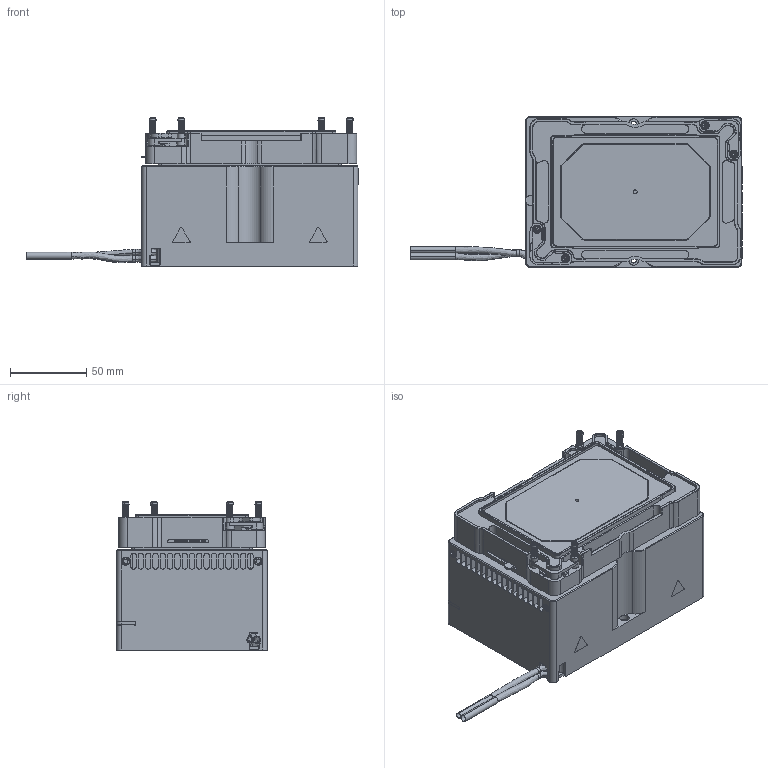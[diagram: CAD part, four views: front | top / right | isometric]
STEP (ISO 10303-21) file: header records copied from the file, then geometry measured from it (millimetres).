
FILE_DESCRIPTION (( 'STEP AP214' ), '1' );
FILE_NAME ('2016-0600_3004-01_external_use.STEP', '2022-06-02T17:02:59', ( '' ), ( '' ), 'SwSTEP 2.0', 'SolidWorks 2021', '' );
FILE_SCHEMA (( 'AUTOMOTIVE_DESIGN' ));
Length unit declared in the file: millimetre
Products named in the file (1): 2016-0600_3004-01_external_use
Bounding box: 218.1 x 99.2 x 97.23 mm (x, y, z)
Surface area: 137852.1 mm2 (no closed solid volume)
Topology: 0 solids, 44 shells, 2434 faces, 6871 edges, 4565 vertices
Faces by surface type: plane 1022, cylinder 883, cone 353, bspline 139, torus 37
Entity records: 124912 total; most frequent: CARTESIAN_POINT 73008, ORIENTED_EDGE 13591, EDGE_CURVE 6839, B_SPLINE_CURVE_WITH_KNOTS 6802, DIRECTION 4628, VERTEX_POINT 4565, EDGE_LOOP 2621, FACE_OUTER_BOUND 2434
